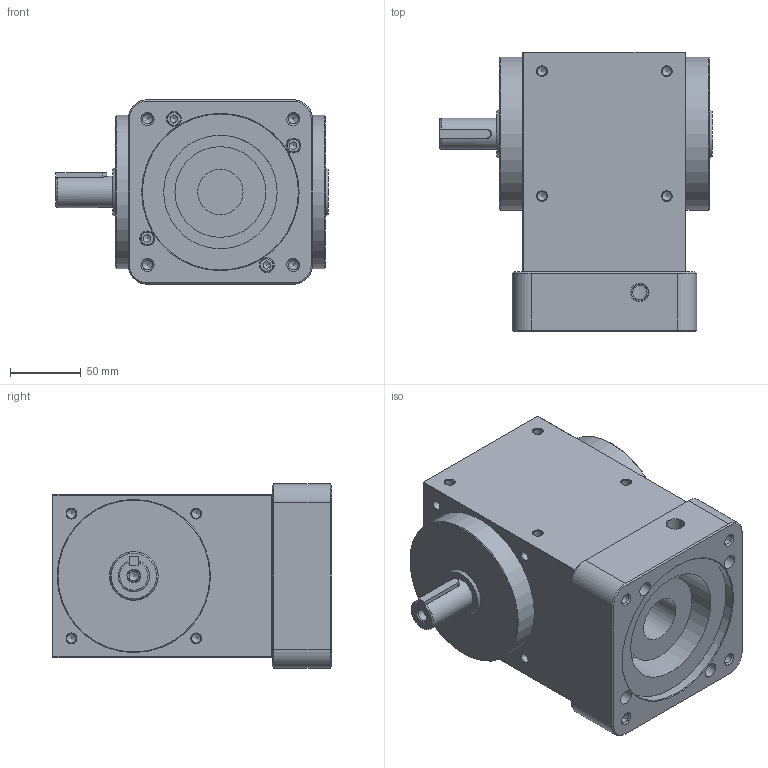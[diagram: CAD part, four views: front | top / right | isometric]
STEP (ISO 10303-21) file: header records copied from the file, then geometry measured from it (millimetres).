
FILE_DESCRIPTION((''),'2;1');
FILE_NAME('D:\유성\SBT 베벨기어박스\최종도면모음\3D\SBT115\SBT115MLS001K.stp','2014-05-20T15:52:28',('nagyu'),(''),'Autodesk Inventor 2013','Autodesk Inventor 2013','');
FILE_SCHEMA(('AUTOMOTIVE_DESIGN { 1 0 10303 214 1 1 1 1 }'));
Length unit declared in the file: millimetre
Products named in the file (1): SBT115MLS001K_Shrinkwrap_1
Bounding box: 192 x 197 x 130 mm (x, y, z)
Volume: 2842961.6 mm3; surface area: 184427.2 mm2
Topology: 1 solids, 6 shells, 279 faces, 696 edges, 422 vertices
Faces by surface type: plane 99, cylinder 85, cone 81, torus 9, bspline 5
Full cylindrical faces by diameter (mm): 6 x4, 6.6 x4, 6.647 x41, 8 x2, 8.5 x1, 10 x4, 10.2 x1, 10.5 x4, 12 x1, 22 x1, 32 x1, 47.7 x1, 64 x1, 80 x1, 100 x2, 108 x2, 110 x1
Entity records: 7317 total; most frequent: CARTESIAN_POINT 1637, DIRECTION 1222, ORIENTED_EDGE 940, AXIS2_PLACEMENT_3D 524, EDGE_CURVE 470, EDGE_LOOP 453, VERTEX_POINT 341, FACE_OUTER_BOUND 279
